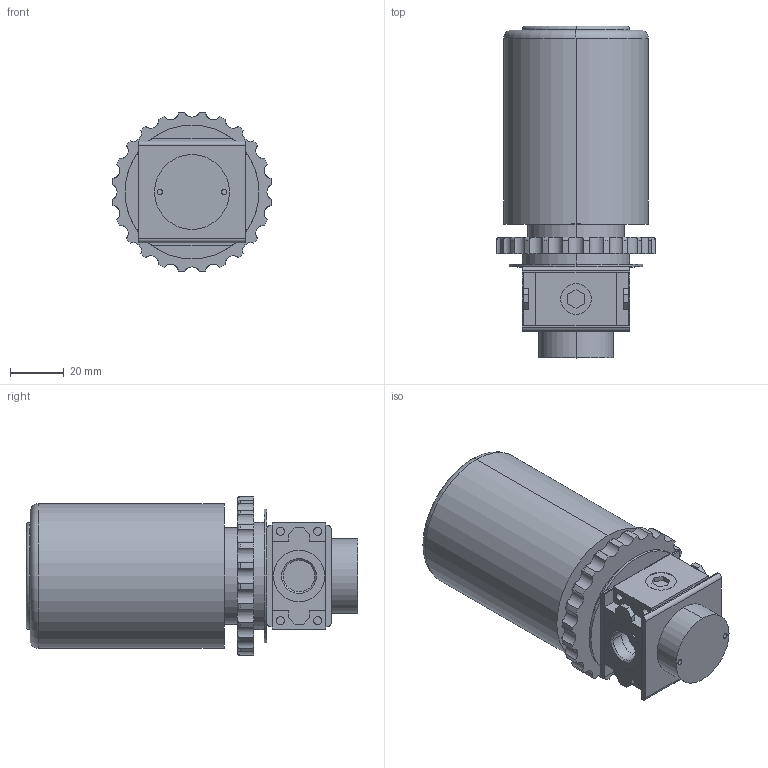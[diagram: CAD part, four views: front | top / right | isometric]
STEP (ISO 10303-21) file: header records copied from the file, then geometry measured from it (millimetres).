
FILE_DESCRIPTION((''),'2;1');
FILE_NAME('0821300667','2016-02-02T',('PUG1HC'),(''),'PRO/ENGINEER BY PARAMETRIC TECHNOLOGY CORPORATION, 2012421','PRO/ENGINEER BY PARAMETRIC TECHNOLOGY CORPORATION, 2012421','');
FILE_SCHEMA(('CONFIG_CONTROL_DESIGN','SHAPE_APPEARANCE_LAYERS_GROUPS'));
Length unit declared in the file: millimetre
Products named in the file (1): 0821300667
Bounding box: 59.74 x 124 x 59.74 mm (x, y, z)
Volume: 234798.7 mm3; surface area: 30626.4 mm2
Topology: 1 solids, 1 shells, 216 faces, 560 edges, 368 vertices
Faces by surface type: cylinder 94, plane 90, torus 28, cone 4
Entity records: 7562 total; most frequent: CARTESIAN_POINT 2080, DIRECTION 1180, ORIENTED_EDGE 1120, EDGE_CURVE 560, AXIS2_PLACEMENT_3D 452, VERTEX_POINT 368, VECTOR 276, LINE 276
